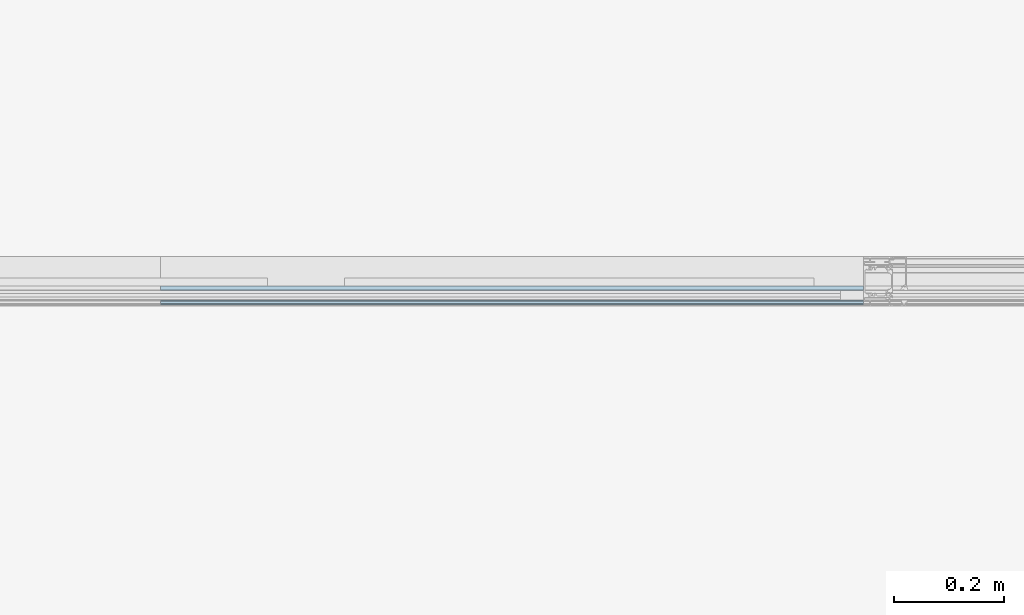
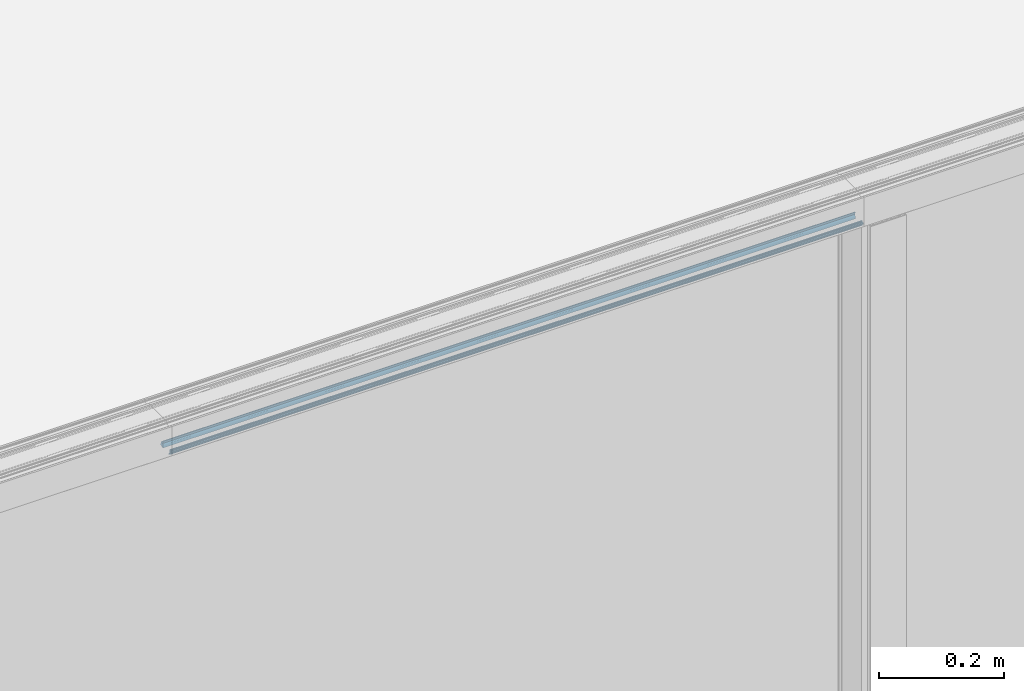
# One storey, part 11 of 69: 1 building element part, 2 elements without a shape of their own.
"""IFC2X3 building model written with IfcOpenShell, lengths in millimetres."""

from ifc_helpers import new_model, entity, si_unit, converted_unit, derived_unit, money_unit, direction, frame, origin_with_axes, place, context, subcontext, project, spatial, faceted_brep, source, transform, mapped, material, type_object, element, aggregate, save


model = new_model("IFC2X3")

# Units and contexts
model_context = context("Model", 3, precision=0.01, world=origin_with_axes(), true_north=direction((0.0, 1.0)))
body_context = subcontext(model_context, "Body", "Model", "MODEL_VIEW")
ifc_project = project(units=[si_unit("LENGTHUNIT", "METRE", prefix="MILLI"), si_unit("AREAUNIT", "SQUARE_METRE"), si_unit("VOLUMEUNIT", "CUBIC_METRE"), converted_unit("PLANEANGLEUNIT", "DEGREE", entity("IfcPlaneAngleMeasure", 0.0174532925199), si_unit("PLANEANGLEUNIT", "RADIAN"), dimensions=[0, 0, 0, 0, 0, 0, 0]), si_unit("SOLIDANGLEUNIT", "STERADIAN"), money_unit("EUR"), converted_unit("TIMEUNIT", "Year", entity("IfcTimeMeasure", 31556926.0), si_unit("TIMEUNIT", "SECOND"), dimensions=[0, 0, 1, 0, 0, 0, 0]), si_unit("MASSUNIT", "GRAM", prefix="KILO"), si_unit("THERMODYNAMICTEMPERATUREUNIT", "DEGREE_CELSIUS"), si_unit("LUMINOUSINTENSITYUNIT", "LUMEN"), si_unit("ENERGYUNIT", "JOULE", prefix="MEGA"), derived_unit("THERMALCONDUCTANCEUNIT", [(si_unit("POWERUNIT", "WATT"), 1), (si_unit("LENGTHUNIT", "METRE"), -1), (si_unit("THERMODYNAMICTEMPERATUREUNIT", "KELVIN"), -1)]), derived_unit("SPECIFICHEATCAPACITYUNIT", [(si_unit("ENERGYUNIT", "JOULE"), 1), (si_unit("MASSUNIT", "GRAM", prefix="KILO"), -1), (si_unit("THERMODYNAMICTEMPERATUREUNIT", "KELVIN"), -1)]), derived_unit("MASSDENSITYUNIT", [(si_unit("MASSUNIT", "GRAM", prefix="KILO"), 1), (si_unit("VOLUMEUNIT", "CUBIC_METRE"), -1)])], contexts=[model_context])

# Site, building, storey
site_placement = place(None, origin_with_axes())
site = spatial("IfcSite", under=ifc_project, at=site_placement, Name="Puškini 31, Narva", CompositionType="ELEMENT")
building_placement = place(site_placement, origin_with_axes())
building = spatial("IfcBuilding", under=site, at=building_placement, Name="Narva Riigigümnaasium", CompositionType="ELEMENT")
storey_placement = place(building_placement, origin_with_axes())
storey = spatial("IfcBuildingStorey", under=building, at=storey_placement, Name="1.korrus 0.00", CompositionType="ELEMENT", Elevation=0.0)

# Curtain wall, member, building element part
curtain_wall_type = type_object("IfcCurtainWallType", Name="Curtain Wall Type", PredefinedType="NOTDEFINED")
curtain_wall_placement = place(storey_placement, frame((18229.9603698, 152620.000001, -0.397158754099), z_axis=(0.0, 0.0, 1.0), x_axis=(1.0, 0.0, 0.0)))
curtain_wall = element("IfcCurtainWall", 1, at=curtain_wall_placement, inside=storey, type_object=curtain_wall_type, Name="G-KLF-01-1")
member_type = type_object("IfcMemberType", Name="61 x 45", PredefinedType="MULLION")
member_placement = place(curtain_wall_placement, frame((3158.7233041, 0.0, 3760.3971197), z_axis=(-1.0, 0.0, 0.0), x_axis=(0.0, 0.0, 1.0)))
member = element("IfcMember", 2, at=member_placement, type_object=member_type, Name="G-SKLF-01-raam", ObjectType="MULLION")
aggregate(curtain_wall, [member])
ifc_material = material(Name="Membraan - Veekindel")
shared_shape = source(origin_with_axes(), body_context, "Body", "Brep", [
    faceted_brep([(61.0413385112, 34.3890442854, 0.0), (59.5800222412, 34.73794757, 0.0), (59.5800222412, 34.73794757, 1276.31643658), (61.0413385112, 34.3890442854, 1276.31643658), (61.1536677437, 34.1934467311, 0.0), (61.1423164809, 33.9681748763, 0.0), (61.0108941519, 33.784859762, 0.0), (60.7381535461, 33.9217644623, 0.0), (59.8409257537, 34.1343131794, 0.0), (58.2346494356, 34.5489145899, 0.0), (56.9567944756, 35.6067920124, 0.0), (56.2495873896, 37.1074172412, 0.0), (56.1542959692, 37.3107917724, 0.0), (55.9795989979, 37.4519392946, 0.0), (55.7607444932, 37.5023809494, 0.0), (55.1093263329, 37.5023809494, 0.0), (54.8593263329, 37.4353936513, 0.0), (54.676313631, 37.2523809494, 0.0), (54.2721684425, 36.5523809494, 0.0), (54.0891557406, 36.3693682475, 0.0), (53.8391557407, 36.3023809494, 0.0), (51.602145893, 36.3023809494, 0.0), (51.352145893, 36.3693682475, 0.0), (51.1691331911, 36.5523809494, 0.0), (50.7649880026, 37.2523809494, 0.0), (50.5819753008, 37.4353936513, 0.0), (50.3319753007, 37.5023809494, 0.0), (49.2206527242, 37.5023809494, 0.0), (48.9706527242, 37.5693682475, 0.0), (48.7876400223, 37.7523809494, 0.0), (48.7206527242, 38.0023809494, 0.0), (48.7206527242, 39.1999494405, 0.0), (50.10004, 39.1999494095, 0.0), (50.1670287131, 38.9499497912, 0.0), (50.3500424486, 38.7669381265, 0.0), (50.6000428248, 38.699952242, 0.0), (50.8500424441, 38.7669409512, 0.0), (51.0330541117, 38.9499546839, 0.0), (51.10004, 39.1999550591, 0.0), (51.10004, 40.4999366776, 0.0), (51.0598476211, 40.6499366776, 0.0), (50.95004, 40.7597442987, 0.0), (50.80004, 40.7999366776, 0.0), (50.7000457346, 40.7999366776, 0.0), (50.5334025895, 40.8504763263, 0.0), (50.4229059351, 40.9850671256, 0.0), (50.4057850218, 41.1583618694, 0.0), (50.4878083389, 41.3119729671, 0.0), (51.5281601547, 42.3533311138, 0.0), (51.6904310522, 42.4618421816, 0.0), (51.8818844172, 42.4999486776, 0.0), (53.517932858, 42.4999486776, 0.0), (53.7093558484, 42.4618547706, 0.0), (53.8716106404, 42.3533776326, 0.0), (54.9122350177, 41.3120206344, 0.0), (54.9942836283, 41.1584047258, 0.0), (54.9771753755, 40.9850924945, 0.0), (54.866675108, 40.850483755, 0.0), (54.7000173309, 40.7999366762, 0.0), (54.6000210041, 40.7999366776, 0.0), (54.4500210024, 40.7597443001, 0.0), (54.3402133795, 40.6499366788, 0.0), (54.300021, 40.4999366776, 0.0), (54.300021, 39.1999606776, 0.0), (54.3670082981, 38.9499606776, 0.0), (54.5500210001, 38.7669479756, 0.0), (54.8000210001, 38.6999606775, 0.0), (55.0500210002, 38.7669479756, 0.0), (55.2330337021, 38.9499606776, 0.0), (55.3000210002, 39.1999606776, 0.0), (57.3000022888, 39.1999494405, 0.0), (57.3000022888, 39.9999846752, 0.0), (57.5000161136, 39.946391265, 0.0), (57.6464370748, 39.799971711, 0.0), (57.7000324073, 39.5999584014, 0.0), (57.9693613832, 36.5265882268, 0.0), (58.4755028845, 35.3628499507, 0.0), (53.5000340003, 40.7999553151, 0.0), (53.4330491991, 41.0499459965, 0.0), (53.2500433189, 41.2329518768, 0.0), (53.0000526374, 41.299936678, 0.0), (52.4000083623, 41.299936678, 0.0), (52.150017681, 41.2329518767, 0.0), (51.9670118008, 41.0499459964, 0.0), (51.9000269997, 40.799955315, 0.0), (51.9000269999, 39.6999268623, 0.0), (51.9670129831, 39.4499317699, 0.0), (52.1500220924, 39.2669226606, 0.0), (52.4000171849, 39.1999366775, 0.0), (53.0000438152, 39.1999366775, 0.0), (53.2500389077, 39.2669226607, 0.0), (53.433048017, 39.44993177, 0.0), (58.4755028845, 35.3628499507, 1276.31643658), (57.9693613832, 36.5265882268, 1276.31643658), (57.7000324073, 39.5999584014, 1276.31643658), (57.6464370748, 39.799971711, 1276.31643658), (57.5000161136, 39.946391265, 1276.31643658), (57.3000022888, 39.9999846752, 1276.31643658), (57.3000022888, 39.1999494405, 1276.31643658), (55.3000210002, 39.1999606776, 1276.31643658), (55.2330337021, 38.9499606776, 1276.31643658), (55.0500210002, 38.7669479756, 1276.31643658), (54.8000210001, 38.6999606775, 1276.31643658), (54.5500210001, 38.7669479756, 1276.31643658), (54.3670082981, 38.9499606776, 1276.31643658), (54.300021, 39.1999606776, 1276.31643658), (54.300021, 40.4999366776, 1276.31643658), (54.3402133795, 40.6499366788, 1276.31643658), (54.4500210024, 40.7597443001, 1276.31643658), (54.6000210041, 40.7999366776, 1276.31643658), (54.7000173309, 40.7999366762, 1276.31643658), (54.866675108, 40.850483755, 1276.31643658), (54.9771753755, 40.9850924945, 1276.31643658), (54.9942836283, 41.1584047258, 1276.31643658), (54.9122350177, 41.3120206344, 1276.31643658), (53.8716106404, 42.3533776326, 1276.31643658), (53.7093558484, 42.4618547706, 1276.31643658), (53.517932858, 42.4999486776, 1276.31643658), (51.8818844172, 42.4999486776, 1276.31643658), (51.6904310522, 42.4618421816, 1276.31643658), (51.5281601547, 42.3533311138, 1276.31643658), (50.4878083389, 41.3119729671, 1276.31643658), (50.4057850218, 41.1583618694, 1276.31643658), (50.4229059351, 40.9850671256, 1276.31643658), (50.5334025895, 40.8504763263, 1276.31643658), (50.7000457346, 40.7999366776, 1276.31643658), (50.80004, 40.7999366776, 1276.31643658), (50.95004, 40.7597442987, 1276.31643658), (51.0598476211, 40.6499366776, 1276.31643658), (51.10004, 40.4999366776, 1276.31643658), (51.10004, 39.1999550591, 1276.31643658), (51.0330541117, 38.9499546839, 1276.31643658), (50.8500424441, 38.7669409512, 1276.31643658), (50.6000428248, 38.699952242, 1276.31643658), (50.3500424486, 38.7669381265, 1276.31643658), (50.1670287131, 38.9499497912, 1276.31643658), (50.10004, 39.1999494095, 1276.31643658), (48.7206527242, 39.1999494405, 1276.31643658), (48.7206527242, 38.0023809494, 1276.31643658), (48.7876400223, 37.7523809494, 1276.31643658), (48.9706527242, 37.5693682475, 1276.31643658), (49.2206527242, 37.5023809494, 1276.31643658), (50.3319753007, 37.5023809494, 1276.31643658), (50.5819753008, 37.4353936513, 1276.31643658), (50.7649880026, 37.2523809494, 1276.31643658), (51.1691331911, 36.5523809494, 1276.31643658), (51.352145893, 36.3693682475, 1276.31643658), (51.602145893, 36.3023809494, 1276.31643658), (53.8391557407, 36.3023809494, 1276.31643658), (54.0891557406, 36.3693682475, 1276.31643658), (54.2721684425, 36.5523809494, 1276.31643658), (54.676313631, 37.2523809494, 1276.31643658), (54.8593263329, 37.4353936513, 1276.31643658), (55.1093263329, 37.5023809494, 1276.31643658), (55.7607444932, 37.5023809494, 1276.31643658), (55.9795989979, 37.4519392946, 1276.31643658), (56.1542959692, 37.3107917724, 1276.31643658), (56.2495873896, 37.1074172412, 1276.31643658), (56.9567944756, 35.6067920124, 1276.31643658), (58.2346494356, 34.5489145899, 1276.31643658), (59.8409257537, 34.1343131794, 1276.31643658), (60.7381535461, 33.9217644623, 1276.31643658), (61.0108941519, 33.784859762, 1276.31643658), (61.1423164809, 33.9681748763, 1276.31643658), (61.1536677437, 34.1934467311, 1276.31643658), (53.5000340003, 40.7999553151, 1276.31643658), (53.433048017, 39.44993177, 1276.31643658), (53.2500389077, 39.2669226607, 1276.31643658), (53.0000438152, 39.1999366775, 1276.31643658), (52.4000171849, 39.1999366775, 1276.31643658), (52.1500220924, 39.2669226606, 1276.31643658), (51.9670129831, 39.4499317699, 1276.31643658), (51.9000269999, 39.6999268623, 1276.31643658), (51.9000269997, 40.799955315, 1276.31643658), (51.9670118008, 41.0499459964, 1276.31643658), (52.150017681, 41.2329518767, 1276.31643658), (52.4000083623, 41.299936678, 1276.31643658), (53.0000526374, 41.299936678, 1276.31643658), (53.2500433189, 41.2329518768, 1276.31643658), (53.4330491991, 41.0499459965, 1276.31643658)], [[[0, 1, 2, 3]], [[0, 4, 5, 6, 7, 8, 9, 10, 11, 12, 13, 14, 15, 16, 17, 18, 19, 20, 21, 22, 23, 24, 25, 26, 27, 28, 29, 30, 31, 32, 33, 34, 35, 36, 37, 38, 39, 40, 41, 42, 43, 44, 45, 46, 47, 48, 49, 50, 51, 52, 53, 54, 55, 56, 57, 58, 59, 60, 61, 62, 63, 64, 65, 66, 67, 68, 69, 70, 71, 72, 73, 74, 75, 76, 1], [77, 78, 79, 80, 81, 82, 83, 84, 85, 86, 87, 88, 89, 90, 91]], [[1, 76, 92, 2]], [[3, 2, 92, 93, 94, 95, 96, 97, 98, 99, 100, 101, 102, 103, 104, 105, 106, 107, 108, 109, 110, 111, 112, 113, 114, 115, 116, 117, 118, 119, 120, 121, 122, 123, 124, 125, 126, 127, 128, 129, 130, 131, 132, 133, 134, 135, 136, 137, 138, 139, 140, 141, 142, 143, 144, 145, 146, 147, 148, 149, 150, 151, 152, 153, 154, 155, 156, 157, 158, 159, 160, 161, 162, 163, 164], [165, 166, 167, 168, 169, 170, 171, 172, 173, 174, 175, 176, 177, 178, 179]], [[4, 0, 3, 164]], [[5, 4, 164, 163]], [[6, 5, 163, 162]], [[7, 6, 162, 161]], [[8, 7, 161, 160]], [[9, 8, 160, 159]], [[10, 9, 159, 158]], [[11, 10, 158, 157]], [[12, 11, 157, 156]], [[13, 12, 156, 155]], [[14, 13, 155, 154]], [[15, 14, 154, 153]], [[16, 15, 153, 152]], [[17, 16, 152, 151]], [[18, 17, 151, 150]], [[19, 18, 150, 149]], [[20, 19, 149, 148]], [[21, 20, 148, 147]], [[22, 21, 147, 146]], [[23, 22, 146, 145]], [[24, 23, 145, 144]], [[25, 24, 144, 143]], [[26, 25, 143, 142]], [[27, 26, 142, 141]], [[28, 27, 141, 140]], [[29, 28, 140, 139]], [[30, 29, 139, 138]], [[31, 30, 138, 137]], [[32, 31, 137, 136]], [[33, 32, 136, 135]], [[34, 33, 135, 134]], [[35, 34, 134, 133]], [[36, 35, 133, 132]], [[37, 36, 132, 131]], [[38, 37, 131, 130]], [[39, 38, 130, 129]], [[40, 39, 129, 128]], [[41, 40, 128, 127]], [[42, 41, 127, 126]], [[43, 42, 126, 125]], [[44, 43, 125, 124]], [[45, 44, 124, 123]], [[46, 45, 123, 122]], [[47, 46, 122, 121]], [[48, 47, 121, 120]], [[49, 48, 120, 119]], [[50, 49, 119, 118]], [[51, 50, 118, 117]], [[52, 51, 117, 116]], [[53, 52, 116, 115]], [[54, 53, 115, 114]], [[55, 54, 114, 113]], [[56, 55, 113, 112]], [[57, 56, 112, 111]], [[58, 57, 111, 110]], [[59, 58, 110, 109]], [[60, 59, 109, 108]], [[61, 60, 108, 107]], [[62, 61, 107, 106]], [[63, 62, 106, 105]], [[64, 63, 105, 104]], [[65, 64, 104, 103]], [[66, 65, 103, 102]], [[67, 66, 102, 101]], [[68, 67, 101, 100]], [[69, 68, 100, 99]], [[70, 69, 99, 98]], [[71, 70, 98, 97]], [[72, 71, 97, 96]], [[73, 72, 96, 95]], [[74, 73, 95, 94]], [[75, 74, 94, 93]], [[76, 75, 93, 92]], [[78, 77, 165, 179]], [[79, 78, 179, 178]], [[80, 79, 178, 177]], [[81, 80, 177, 176]], [[82, 81, 176, 175]], [[83, 82, 175, 174]], [[84, 83, 174, 173]], [[85, 84, 173, 172]], [[86, 85, 172, 171]], [[87, 86, 171, 170]], [[88, 87, 170, 169]], [[89, 88, 169, 168]], [[90, 89, 168, 167]], [[91, 90, 167, 166]], [[77, 91, 166, 165]]]),
    faceted_brep([(59.0307115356, 16.554149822, 0.0), (55.9926715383, 16.8063498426, 0.0), (55.9926715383, 16.8063498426, 1276.31643658), (59.0307115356, 16.554149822, 1276.31643658), (59.3884652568, 16.1092618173, 0.0), (59.5001582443, 15.5494067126, 0.0), (59.3405112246, 15.0012955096, 0.0), (57.5418652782, 10.0035930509, 0.0), (57.2632233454, 8.46932121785, 0.0), (57.1824204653, 8.36745448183, 0.0), (57.0661058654, 8.3093438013, 0.0), (56.9361285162, 8.30590490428, 0.0), (55.5361285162, 8.57803733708, 0.0), (55.4168250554, 8.62997353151, 0.0), (55.3307332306, 8.72753828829, 0.0), (55.2940485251, 8.85237785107, 0.0), (55.4099827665, 9.81272116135, 0.0), (55.3838261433, 9.9780831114, 0.0), (55.2731258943, 10.1036784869, 0.0), (55.1123574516, 10.1503930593, 0.0), (53.0580290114, 10.1503930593, 0.0), (52.8859560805, 10.0961386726, 0.0), (52.7761212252, 9.95299910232, 0.0), (52.3556584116, 8.79778701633, 0.0), (52.2574645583, 8.66326410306, 0.0), (52.1026310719, 8.60190419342, 0.0), (51.938943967, 8.6326446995, 0.0), (51.8169217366, 8.74599822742, 0.0), (45.6142070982, 15.4144760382, 0.0), (45.3418968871, 15.7688623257, 0.0), (45.3195226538, 16.2152275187, 0.0), (45.3889077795, 16.3899097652, 0.0), (45.6241929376, 16.6482027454, 0.0), (45.950966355, 16.7718696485, 0.0), (46.298307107, 16.7340705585, 0.0), (50.5536994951, 15.2121179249, 0.0), (50.8437237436, 15.0307134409, 0.0), (51.0558924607, 14.9074036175, 0.0), (51.3011765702, 14.8998814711, 0.0), (51.5205025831, 15.0099586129, 0.0), (53.1225200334, 16.3483062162, 0.0), (53.7899070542, 16.6230039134, 0.0), (53.7899070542, 16.6230039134, 1276.31643658), (53.1225200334, 16.3483062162, 1276.31643658), (51.5205025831, 15.0099586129, 1276.31643658), (51.3011765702, 14.8998814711, 1276.31643658), (51.0558924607, 14.9074036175, 1276.31643658), (50.8437237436, 15.0307134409, 1276.31643658), (50.5536994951, 15.2121179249, 1276.31643658), (46.298307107, 16.7340705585, 1276.31643658), (45.950966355, 16.7718696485, 1276.31643658), (45.6241929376, 16.6482027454, 1276.31643658), (45.3889077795, 16.3899097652, 1276.31643658), (45.3195226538, 16.2152275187, 1276.31643658), (45.3418968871, 15.7688623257, 1276.31643658), (45.6142070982, 15.4144760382, 1276.31643658), (51.8169217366, 8.74599822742, 1276.31643658), (51.938943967, 8.6326446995, 1276.31643658), (52.1026310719, 8.60190419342, 1276.31643658), (52.2574645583, 8.66326410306, 1276.31643658), (52.3556584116, 8.79778701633, 1276.31643658), (52.7761212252, 9.95299910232, 1276.31643658), (52.8859560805, 10.0961386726, 1276.31643658), (53.0580290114, 10.1503930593, 1276.31643658), (55.1123574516, 10.1503930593, 1276.31643658), (55.2731258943, 10.1036784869, 1276.31643658), (55.3838261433, 9.9780831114, 1276.31643658), (55.4099827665, 9.81272116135, 1276.31643658), (55.2940485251, 8.85237785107, 1276.31643658), (55.3307332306, 8.72753828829, 1276.31643658), (55.4168250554, 8.62997353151, 1276.31643658), (55.5361285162, 8.57803733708, 1276.31643658), (56.9361285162, 8.30590490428, 1276.31643658), (57.0661058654, 8.3093438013, 1276.31643658), (57.1824204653, 8.36745448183, 1276.31643658), (57.2632233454, 8.46932121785, 1276.31643658), (57.5418652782, 10.0035930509, 1276.31643658), (59.3405112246, 15.0012955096, 1276.31643658), (59.5001582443, 15.5494067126, 1276.31643658), (59.3884652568, 16.1092618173, 1276.31643658)], [[[0, 1, 2, 3]], [[0, 4, 5, 6, 7, 8, 9, 10, 11, 12, 13, 14, 15, 16, 17, 18, 19, 20, 21, 22, 23, 24, 25, 26, 27, 28, 29, 30, 31, 32, 33, 34, 35, 36, 37, 38, 39, 40, 41, 1]], [[1, 41, 42, 2]], [[3, 2, 42, 43, 44, 45, 46, 47, 48, 49, 50, 51, 52, 53, 54, 55, 56, 57, 58, 59, 60, 61, 62, 63, 64, 65, 66, 67, 68, 69, 70, 71, 72, 73, 74, 75, 76, 77, 78, 79]], [[4, 0, 3, 79]], [[5, 4, 79, 78]], [[6, 5, 78, 77]], [[7, 6, 77, 76]], [[8, 7, 76, 75]], [[9, 8, 75, 74]], [[10, 9, 74, 73]], [[11, 10, 73, 72]], [[12, 11, 72, 71]], [[13, 12, 71, 70]], [[14, 13, 70, 69]], [[15, 14, 69, 68]], [[16, 15, 68, 67]], [[17, 16, 67, 66]], [[18, 17, 66, 65]], [[19, 18, 65, 64]], [[20, 19, 64, 63]], [[21, 20, 63, 62]], [[22, 21, 62, 61]], [[23, 22, 61, 60]], [[24, 23, 60, 59]], [[25, 24, 59, 58]], [[26, 25, 58, 57]], [[27, 26, 57, 56]], [[28, 27, 56, 55]], [[29, 28, 55, 54]], [[30, 29, 54, 53]], [[31, 30, 53, 52]], [[32, 31, 52, 51]], [[33, 32, 51, 50]], [[34, 33, 50, 49]], [[35, 34, 49, 48]], [[36, 35, 48, 47]], [[37, 36, 47, 46]], [[38, 37, 46, 45]], [[39, 38, 45, 44]], [[40, 39, 44, 43]], [[41, 40, 43, 42]]]),
])
building_element_part_placement = place(member_placement, origin_with_axes())
building_element_part = element("IfcBuildingElementPart", 3, at=building_element_part_placement, material=ifc_material, Name="Membraan - Veekindel", context=body_context, shape_type="MappedRepresentation", body=[
    mapped(shared_shape, transform((0.0, 0.0, 0.0), x_axis=(-1.0, 0.0, 0.0), y_axis=(0.0, -1.0, 0.0), z_axis=(0.0, 0.0, 1.0))),
])
aggregate(member, [building_element_part])

save(model, "model.ifc")
